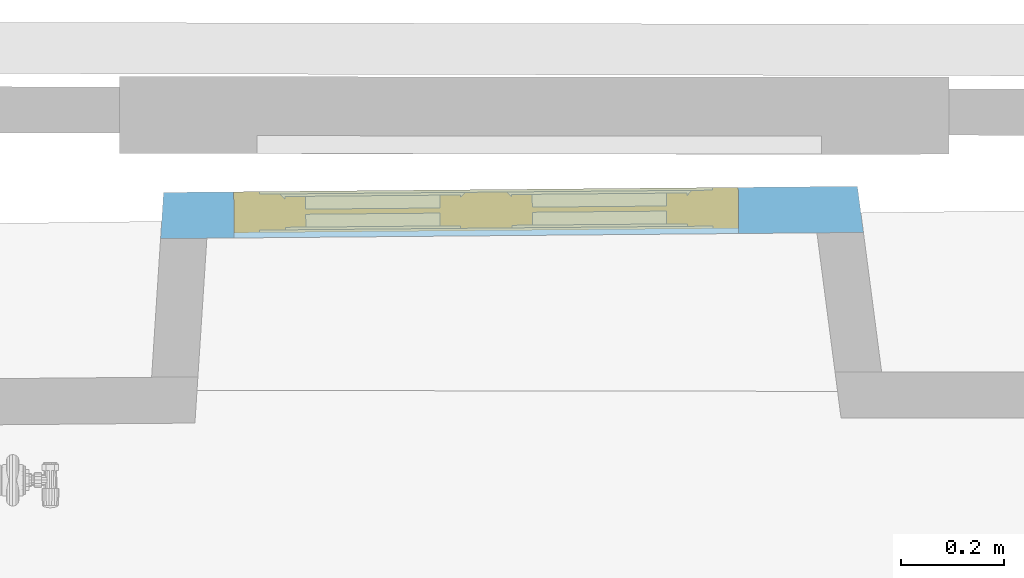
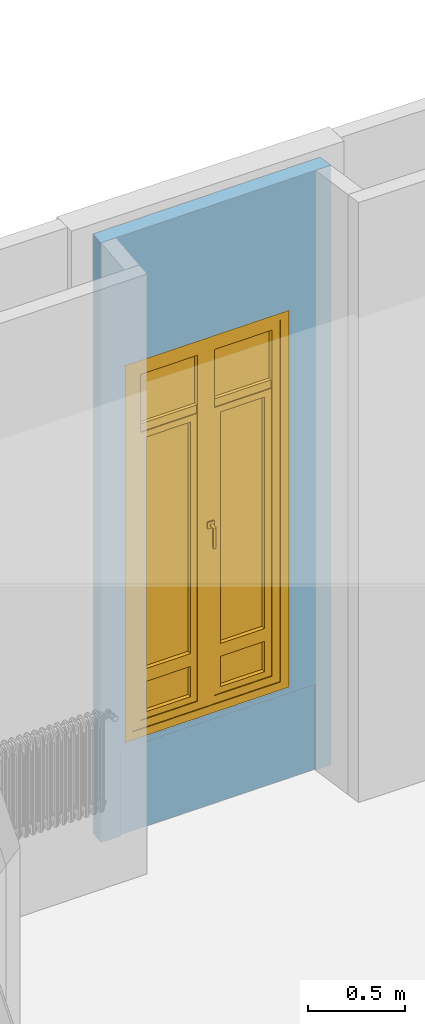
# One storey, part 43 of 66: 1 window, 2 openings, plus 1 element that does not belong to this part.
"""IFC2X3 building model written with IfcOpenShell, lengths in centimetres."""

from ifc_helpers import new_model, entity, si_unit, converted_unit, direction, frame, origin, origin_with_axes, place, context, subcontext, project, spatial, polyline, outline, extrude, faceted_brep, shape, source, transform, mapped, material, material_list, layer, layer_set, layer_usage, type_object, element, fill, save


model = new_model("IFC2X3")

# Units and contexts
model_context = context("Model", 3, precision=0.0001, world=origin(), true_north=direction((0.225632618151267, 0.974212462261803, 0.0)))
body_context = subcontext(model_context, "Body", "Model", "MODEL_VIEW")
footprint_context = subcontext(model_context, "FootPrint", "Model", "MODEL_VIEW")
profile_context = subcontext(model_context, "Profile", "Model", "MODEL_VIEW")
ifc_project = project(units=[si_unit("LENGTHUNIT", "METRE", prefix="CENTI"), si_unit("AREAUNIT", "SQUARE_METRE", prefix="CENTI"), si_unit("VOLUMEUNIT", "CUBIC_METRE", prefix="CENTI"), converted_unit("PLANEANGLEUNIT", "DEGREE", entity("IfcRatioMeasure", 0.0174532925), si_unit("PLANEANGLEUNIT", "RADIAN"), dimensions=[0, 0, 0, 0, 0, 0, 0])], contexts=[model_context])

# Site, building, storey
site_placement = place(None, origin_with_axes())
site = spatial("IfcSite", under=ifc_project, at=site_placement, Name="Default Site", CompositionType="ELEMENT")
building_placement = place(site_placement, origin_with_axes())
building = spatial("IfcBuilding", under=site, at=building_placement, Name="Default Building", CompositionType="ELEMENT")
storey_placement = place(building_placement, frame((0.0, 0.0, 477.795358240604), z_axis=(0.0, 0.0, 1.0), x_axis=(1.0, 0.0, 0.0)))
storey = spatial("IfcBuildingStorey", under=building, at=storey_placement, Name="Niveau 1", CompositionType="ELEMENT", Elevation=477.795358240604)

# Wall, openings, window
ifc_material_1 = material(Name="<aucun>")
ifc_layer = layer(ifc_material_1, 9.0)
ifc_layer_set = layer_set([ifc_layer], Name="default")
ifc_layer_usage = layer_usage(ifc_layer_set, "AXIS2", "POSITIVE", -4.5)
wall_type = type_object("IfcWallType", Name="default 90", PredefinedType="NOTDEFINED", material=ifc_layer_set)
wall_placement = place(storey_placement, frame((-1025.23469400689, 736.471525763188, 0.0128503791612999), z_axis=(0.0, 0.0, 1.0), x_axis=(0.999961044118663, 0.00882667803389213, 0.0)))
wall = element("IfcWallStandardCase", 1, at=wall_placement, inside=storey, type_object=wall_type, material=ifc_layer_usage, Name="Enveloppe 93830", context=body_context, shape_type="SweptSolid", body=[
    extrude(outline(polyline([(-4.82733297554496, -4.4999999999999), (132.179379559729, -4.49999999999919), (131.08648423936, 4.50000000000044), (-4.16534960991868, 4.49999999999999), (-4.82733297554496, -4.4999999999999)])), origin_with_axes(), (0.0, 0.0, 1.0), 376.102165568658),
])
opening_1_placement = place(wall_placement, frame((6.79993286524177, 3.41060513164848e-13, 1.77635683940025e-13), z_axis=(0.0, 0.0, 1.0), x_axis=(-1.0, -3.77128883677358e-15, 0.0)))
cartesian_point_1 = entity("IfcCartesianPoint", [0.0, 8.88178419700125e-14, 54.0])
cartesian_point_2 = entity("IfcCartesianPoint", [-116.319956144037, -4.49999999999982])
element("IfcOpeningElement", 2, at=opening_1_placement, cuts=wall, Name="Baie 115411", ObjectType="Recess", shapes=[
    shape(body_context, "Body", "Brep", [faceted_brep([(3.09080713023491e-05, 24.4999918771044, -1.92276756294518e-05), (-116.319960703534, 24.4999918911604, -1.92276756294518e-05), (-116.319960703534, 24.4999918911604, 53.9999769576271), (3.09080713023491e-05, 24.4999918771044, 53.9999769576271), (3.09055336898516e-05, 3.4999811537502, 53.9999769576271), (3.09055336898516e-05, 3.4999811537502, -1.92276756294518e-05), (-3.05080069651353e-05, 3.49998115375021, -1.92276756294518e-05), (-116.319926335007, 3.50002133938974, -1.92276756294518e-05), (-116.319960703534, 24.4999852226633, -1.92276756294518e-05), (-116.319960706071, 3.50002133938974, -1.92276756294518e-05), (-116.319960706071, 3.50002133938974, 53.9999769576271), (-116.319960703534, 24.4999852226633, 53.9999769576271), (-116.319926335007, 3.50002133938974, 53.9999769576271), (-3.05080069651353e-05, 3.49998115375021, 53.9999769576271), (-3.05080069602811e-05, 3.5000213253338, -1.92276756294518e-05), (-3.05080069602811e-05, 3.5000213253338, 53.9999769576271)], [[[0, 1, 2, 3]], [[3, 4, 5, 0]], [[0, 6, 7, 8]], [[8, 9, 10, 11]], [[11, 12, 13, 3]], [[12, 7, 14, 15]]])]),
    shape(profile_context, "Profile", "GeometricCurveSet", [entity("IfcGeometricCurveSet", [entity("IfcPolyline", [cartesian_point_1, entity("IfcCartesianPoint", [0.0, 8.88178419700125e-14, 0.0]), entity("IfcCartesianPoint", [-116.319956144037, 8.88178419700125e-14, 0.0]), entity("IfcCartesianPoint", [-116.319956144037, 8.88178419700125e-14, 54.0]), cartesian_point_1])])]),
    shape(footprint_context, "FootPrint", "GeometricCurveSet", [entity("IfcGeometricCurveSet", [entity("IfcPolyline", [cartesian_point_2, entity("IfcCartesianPoint", [0.0, -4.49999999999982]), entity("IfcCartesianPoint", [1.77635683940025e-13, 4.49999999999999]), entity("IfcCartesianPoint", [-116.319956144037, 4.49999999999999]), cartesian_point_2])])]),
])
opening_2_placement = place(wall_placement, frame((9.50330278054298, 0.0, 56.9871496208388), z_axis=(0.0, 0.0, 1.0), x_axis=(-1.0, -3.77128883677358e-15, 0.0)))
cartesian_point_3 = entity("IfcCartesianPoint", [0.0, 0.0, 237.0])
cartesian_point_4 = entity("IfcCartesianPoint", [-98.3512092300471, -4.50000000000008])
opening_2 = element("IfcOpeningElement", 3, at=opening_2_placement, cuts=wall, Name="4294966426_11", ObjectType="Opening", shapes=[
    shape(body_context, "Body", "SweptSolid", [extrude(outline(polyline([(-1.77635683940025e-13, 237.0), (-1.77635683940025e-13, 0.0), (98.3512092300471, 0.0), (98.3512092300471, 237.0), (-1.77635683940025e-13, 237.0)])), frame((0.0, -14.5, 0.0), z_axis=(0.0, 1.0, 0.0), x_axis=(-1.0, 0.0, 0.0)), (0.0, 0.0, 1.0), 29.0)]),
    shape(profile_context, "Profile", "GeometricCurveSet", [entity("IfcGeometricCurveSet", [entity("IfcPolyline", [cartesian_point_3, entity("IfcCartesianPoint", [0.0, 0.0, 0.0]), entity("IfcCartesianPoint", [-98.3512092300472, -8.88178419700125e-14, 0.0]), entity("IfcCartesianPoint", [-98.3512092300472, -8.88178419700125e-14, 237.0]), cartesian_point_3])])]),
    shape(footprint_context, "FootPrint", "GeometricCurveSet", [entity("IfcGeometricCurveSet", [entity("IfcPolyline", [cartesian_point_4, entity("IfcCartesianPoint", [1.77635683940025e-13, -4.50000000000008]), entity("IfcCartesianPoint", [1.77635683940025e-13, 4.4999999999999]), entity("IfcCartesianPoint", [-98.3512092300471, 4.49999999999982]), cartesian_point_4])])]),
])
ifc_material_2 = material(Name="Transparent")
ifc_material_3 = material(Name="Vert clair_porte")
ifc_material_4 = material(Name="Aluminium satiné")
ifc_material_list = material_list([ifc_material_2, ifc_material_3, ifc_material_4])
window_style = type_object("IfcWindowStyle", Name="FN[R] 2VB[2V] MM", ConstructionType="NOTDEFINED", OperationType="NOTDEFINED", ParameterTakesPrecedence=False, Sizeable=False, material=ifc_material_list)
shared_shape = source(origin_with_axes(), body_context, "Body", "Brep", [
    faceted_brep([(-44.1756039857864, 231.99999332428, -3.99999991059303), (-44.1756039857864, 231.99999332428, 3.99999991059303), (-44.1756039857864, 5.00000007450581, 3.99999991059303), (-44.1756039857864, 5.00000007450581, -3.99999991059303), (-49.1756051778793, 236.999988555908, 3.99999991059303), (-49.1756051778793, 0.0, 3.99999991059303), (-49.1756051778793, 236.999988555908, -3.99999991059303), (-49.1756051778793, 0.0, -3.99999991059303), (44.1756039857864, 5.0000000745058, 3.99999991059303), (44.1756039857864, 5.0000000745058, -3.99999991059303), (49.1756051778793, 0.0, 3.99999991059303), (44.1756039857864, 5.00000007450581, 3.99999991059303), (49.1756051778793, 0.0, -3.99999991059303), (44.1756039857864, 5.00000007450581, -3.99999991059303), (44.1756039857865, 231.99999332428, 3.99999991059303), (44.1756039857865, 231.99999332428, -3.99999991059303), (49.1756051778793, 236.999988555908, 3.99999991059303), (44.1756039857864, 231.99999332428, 3.99999991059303), (49.1756051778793, 236.999988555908, -3.99999991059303), (44.1756039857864, 231.99999332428, -3.99999991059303)], [[[0, 1, 2, 3]], [[1, 4, 5, 2]], [[4, 6, 7, 5]], [[6, 0, 3, 7]], [[3, 2, 8, 9]], [[2, 5, 10, 11]], [[5, 7, 12, 10]], [[7, 3, 13, 12]], [[13, 11, 14, 15]], [[11, 10, 16, 17]], [[10, 12, 18, 16]], [[12, 13, 19, 18]], [[19, 17, 1, 0]], [[17, 16, 4, 1]], [[16, 18, 6, 4]], [[18, 19, 0, 6]]]),
    faceted_brep([(-40.1756048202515, 227.999997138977, -3.50000001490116), (-39.1756053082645, 226.999998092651, -2.50000050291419), (-39.1756053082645, 10.0000001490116, -2.50000050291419), (-40.1756048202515, 9.00000035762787, -3.50000001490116), (-39.1756057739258, 226.999998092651, -2.5000000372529), (-39.1756057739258, 226.999998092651, 3.50000001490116), (-39.1756057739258, 10.0000001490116, 3.50000001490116), (-39.1756057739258, 10.0000001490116, -2.5000000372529), (-44.1756039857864, 231.99999332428, 3.50000001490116), (-44.1756039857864, 5.00000007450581, 3.50000001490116), (-44.1756039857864, 231.99999332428, -3.50000001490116), (-44.1756039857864, 5.00000007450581, -3.50000001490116), (-39.1756057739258, 10.0000002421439, -2.50000013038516), (-5.00000007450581, 10.0000002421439, -2.50000013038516), (-3.99999991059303, 9.00000035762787, -3.50000001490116), (-5.00000007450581, 10.0000001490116, 3.50000001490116), (-5.00000007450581, 10.0000001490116, -2.5000000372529), (1.11022302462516e-14, 5.00000007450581, 3.50000001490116), (1.11022302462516e-14, 5.00000007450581, -3.50000001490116), (-4.99999998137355, 10.0000001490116, -2.49999994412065), (-4.99999998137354, 226.999998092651, -2.49999994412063), (-3.99999991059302, 227.999997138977, -3.50000001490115), (-5.00000007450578, 226.999998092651, 3.50000001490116), (-5.00000007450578, 226.999998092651, -2.5000000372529), (2.22044604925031e-14, 231.99999332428, 3.50000001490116), (-5.00000007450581, 226.999998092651, 3.50000001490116), (2.22044600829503e-14, 231.99999332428, -3.50000001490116), (2.22044600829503e-14, 231.99999332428, 3.50000001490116), (-3.99999991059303, 227.999997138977, -3.50000001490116), (2.22044604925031e-14, 231.99999332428, -3.50000001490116), (-5.00000007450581, 226.99999762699, -2.50000050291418), (-39.1756057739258, 226.99999762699, -2.50000050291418), (-5.00000007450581, 226.999998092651, -2.5000000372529)], [[[0, 1, 2, 3]], [[4, 5, 6, 7]], [[5, 8, 9, 6]], [[8, 10, 11, 9]], [[10, 0, 3, 11]], [[3, 12, 13, 14]], [[7, 6, 15, 16]], [[6, 9, 17, 15]], [[9, 11, 18, 17]], [[11, 3, 14, 18]], [[14, 19, 20, 21]], [[16, 15, 22, 23]], [[15, 17, 24, 25]], [[17, 18, 26, 27]], [[18, 14, 28, 29]], [[28, 30, 31, 0]], [[32, 25, 5, 4]], [[25, 24, 8, 5]], [[24, 29, 10, 8]], [[29, 28, 0, 10]]]),
    faceted_brep([(-5.00000007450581, 226.999998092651, -0.499999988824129), (-5.00000007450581, 195.200002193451, -0.499999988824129), (-39.1756057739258, 195.200002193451, -0.499999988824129), (-39.1756057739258, 226.999998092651, -0.499999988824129), (-39.1756057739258, 226.999998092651, 0.499999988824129), (-39.1756057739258, 195.200002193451, 0.499999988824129), (-5.00000007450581, 195.200002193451, 0.499999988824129), (-5.00000007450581, 226.999998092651, 0.499999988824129)], [[[0, 1, 2, 3]], [[4, 5, 6, 7]], [[3, 2, 5, 4]], [[2, 1, 6, 5]], [[1, 0, 7, 6]], [[0, 3, 4, 7]]]),
    faceted_brep([(-5.00000007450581, 190.199995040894, 2.5000000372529), (-5.00000007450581, 190.199995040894, -2.5000000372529), (-5.00000007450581, 195.200002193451, -2.5000000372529), (-5.00000007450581, 195.200002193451, 2.5000000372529), (-39.1756057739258, 195.200002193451, 2.5000000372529), (-39.1756057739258, 195.200002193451, -2.5000000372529), (-39.1756057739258, 190.199995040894, -2.5000000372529), (-39.1756057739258, 190.199995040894, 2.5000000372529)], [[[0, 1, 2, 3]], [[4, 5, 6, 7]], [[3, 2, 5, 4]], [[2, 1, 6, 5]], [[1, 0, 7, 6]], [[0, 3, 4, 7]]]),
    faceted_brep([(-35.1756036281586, 186.199998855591, -2.99999993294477), (-35.1756036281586, 186.199998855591, 2.99999993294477), (-35.1756036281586, 41.0299986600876, 2.99999993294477), (-35.1756036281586, 41.0299986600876, -2.99999993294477), (-39.1756057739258, 190.199995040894, 2.99999993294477), (-39.1756057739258, 37.0299994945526, 2.99999993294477), (-39.1756057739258, 190.199995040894, -2.99999993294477), (-39.1756057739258, 37.0299994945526, -2.99999993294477), (-9.00000035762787, 41.0299986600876, 2.99999993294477), (-9.00000035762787, 41.0299986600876, -2.99999993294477), (-5.00000007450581, 37.0299994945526, 2.99999993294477), (-5.00000007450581, 37.0299994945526, -2.99999993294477), (-9.00000035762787, 186.199998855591, 2.99999993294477), (-9.00000035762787, 186.199998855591, -2.99999993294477), (-5.00000007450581, 190.199995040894, 2.99999993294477), (-5.0000000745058, 190.199995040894, -2.99999993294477), (-5.0000000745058, 190.199995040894, 2.99999993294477), (-5.00000007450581, 190.199995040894, -2.99999993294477)], [[[0, 1, 2, 3]], [[1, 4, 5, 2]], [[4, 6, 7, 5]], [[6, 0, 3, 7]], [[3, 2, 8, 9]], [[2, 5, 10, 8]], [[5, 7, 11, 10]], [[7, 3, 9, 11]], [[9, 8, 12, 13]], [[8, 10, 14, 12]], [[10, 11, 15, 16]], [[11, 9, 13, 17]], [[13, 12, 1, 0]], [[12, 14, 4, 1]], [[14, 17, 6, 4]], [[17, 13, 0, 6]]]),
    faceted_brep([(-9.00000035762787, 186.199998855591, -0.499999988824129), (-9.00000035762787, 41.0299986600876, -0.499999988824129), (-35.1756036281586, 41.0299986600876, -0.499999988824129), (-35.1756036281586, 186.199998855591, -0.499999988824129), (-35.1756036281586, 186.199998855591, 0.499999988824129), (-35.1756036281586, 41.0299986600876, 0.499999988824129), (-9.00000035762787, 41.0299986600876, 0.499999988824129), (-9.00000035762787, 186.199998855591, 0.499999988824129), (-9.00000035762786, 186.199998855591, -0.499999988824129), (-9.00000035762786, 186.199998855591, 0.499999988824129)], [[[0, 1, 2, 3]], [[4, 5, 6, 7]], [[3, 2, 5, 4]], [[2, 1, 6, 5]], [[1, 8, 9, 6]], [[0, 3, 4, 7]]]),
    faceted_brep([(-35.1756036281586, 33.0300003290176, -2.99999993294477), (-35.1756036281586, 33.0300003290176, 2.99999993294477), (-35.1756036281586, 14.0000000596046, 2.99999993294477), (-35.1756036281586, 14.0000000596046, -2.99999993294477), (-39.1756057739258, 37.0299994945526, 2.99999993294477), (-39.1756057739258, 10.0000001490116, 2.99999993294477), (-39.1756057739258, 37.0299994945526, -2.99999993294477), (-39.1756057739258, 10.0000001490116, -2.99999993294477), (-9.00000035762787, 14.0000000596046, 2.99999993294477), (-9.00000035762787, 14.0000000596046, -2.99999993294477), (-5.00000007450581, 10.0000001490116, 2.99999993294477), (-5.00000007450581, 10.0000001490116, -2.99999993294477), (-9.00000035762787, 33.0300003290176, 2.99999993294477), (-9.00000035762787, 33.0300003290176, -2.99999993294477), (-5.00000007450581, 37.0299994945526, 2.99999993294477), (-5.00000007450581, 37.0299994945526, -2.99999993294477)], [[[0, 1, 2, 3]], [[1, 4, 5, 2]], [[4, 6, 7, 5]], [[6, 0, 3, 7]], [[3, 2, 8, 9]], [[2, 5, 10, 8]], [[5, 7, 11, 10]], [[7, 3, 9, 11]], [[9, 8, 12, 13]], [[8, 10, 14, 12]], [[10, 11, 15, 14]], [[11, 9, 13, 15]], [[13, 12, 1, 0]], [[12, 14, 4, 1]], [[14, 15, 6, 4]], [[15, 13, 0, 6]]]),
    faceted_brep([(-9.00000035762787, 33.0300003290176, -0.499999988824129), (-9.00000035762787, 14.0000000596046, -0.499999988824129), (-35.1756036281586, 14.0000000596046, -0.499999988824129), (-35.1756036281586, 33.0300003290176, -0.499999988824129), (-35.1756036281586, 33.0300003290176, 0.499999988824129), (-35.1756036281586, 14.0000000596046, 0.499999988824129), (-9.00000035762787, 14.0000000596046, 0.499999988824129), (-9.00000035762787, 33.0300003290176, 0.499999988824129)], [[[0, 1, 2, 3]], [[4, 5, 6, 7]], [[3, 2, 5, 4]], [[2, 1, 6, 5]], [[1, 0, 7, 6]], [[0, 3, 4, 7]]]),
    faceted_brep([(3.99999991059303, 227.999997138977, -3.50000001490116), (4.99999998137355, 226.999998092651, -2.49999994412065), (4.99999998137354, 10.0000001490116, -2.49999994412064), (3.99999991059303, 9.00000035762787, -3.50000001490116), (5.00000007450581, 226.999998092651, -2.5000000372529), (5.00000007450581, 226.999998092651, 3.50000001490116), (5.0000000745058, 10.0000001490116, 3.50000001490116), (5.0000000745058, 10.0000001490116, -2.5000000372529), (2.22044604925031e-14, 231.99999332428, 3.50000001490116), (1.11022302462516e-14, 5.00000007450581, 3.50000001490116), (5.00000007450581, 10.0000001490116, 3.50000001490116), (2.22044604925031e-14, 231.99999332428, -3.50000001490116), (1.11022306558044e-14, 5.00000007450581, -3.50000001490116), (1.11022306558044e-14, 5.00000007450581, 3.50000001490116), (1.11022302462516e-14, 5.00000007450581, -3.50000001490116), (5.00000007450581, 10.0000002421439, -2.50000013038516), (39.1756057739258, 10.0000002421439, -2.50000013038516), (40.1756048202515, 9.00000035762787, -3.50000001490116), (5.00000007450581, 10.0000001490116, -2.5000000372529), (39.1756057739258, 10.0000001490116, 3.50000001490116), (39.1756057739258, 10.0000001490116, -2.5000000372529), (44.1756039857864, 5.00000007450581, 3.50000001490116), (44.1756039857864, 5.00000007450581, -3.50000001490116), (39.1756053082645, 10.0000001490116, -2.50000050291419), (39.1756053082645, 226.999998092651, -2.50000050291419), (40.1756048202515, 227.999997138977, -3.50000001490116), (39.1756057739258, 226.999998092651, 3.50000001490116), (39.1756057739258, 226.999998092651, -2.5000000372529), (44.1756039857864, 231.99999332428, 3.50000001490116), (44.1756039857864, 231.99999332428, -3.50000001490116), (39.1756057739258, 226.99999762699, -2.50000050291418), (5.00000007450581, 226.99999762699, -2.50000050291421), (3.99999991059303, 227.999997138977, -3.50000001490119)], [[[0, 1, 2, 3]], [[4, 5, 6, 7]], [[5, 8, 9, 10]], [[8, 11, 12, 13]], [[11, 0, 3, 14]], [[3, 15, 16, 17]], [[18, 10, 19, 20]], [[10, 9, 21, 19]], [[9, 14, 22, 21]], [[14, 3, 17, 22]], [[17, 23, 24, 25]], [[20, 19, 26, 27]], [[19, 21, 28, 26]], [[21, 22, 29, 28]], [[22, 17, 25, 29]], [[25, 30, 31, 32]], [[27, 26, 5, 4]], [[26, 28, 8, 5]], [[28, 29, 11, 8]], [[29, 25, 0, 11]]]),
    faceted_brep([(4.50000017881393, 120.500004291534, 3.50000001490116), (4.50000017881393, 116.499996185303, 3.50000001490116), (0.499999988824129, 116.499996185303, 3.50000001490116), (0.499999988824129, 120.500004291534, 3.50000001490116), (0.499999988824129, 120.500004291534, 4.30000014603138), (0.499999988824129, 116.499996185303, 4.30000014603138), (4.50000017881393, 116.499996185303, 4.30000014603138), (4.50000017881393, 120.500004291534, 4.30000014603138)], [[[0, 1, 2, 3]], [[4, 5, 6, 7]], [[3, 2, 5, 4]], [[2, 1, 6, 5]], [[1, 0, 7, 6]], [[0, 3, 4, 7]]]),
    faceted_brep([(3.24999988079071, 119.000005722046, 4.30000014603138), (3.24999988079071, 117.999994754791, 4.30000014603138), (1.75000000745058, 117.999994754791, 4.30000014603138), (1.75000000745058, 119.000005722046, 4.30000014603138), (1.75000000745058, 119.000005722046, 8.29999968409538), (1.75000000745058, 118.000000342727, 7.29999430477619), (3.24999988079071, 118.000000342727, 7.29999430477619), (3.24999988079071, 119.000005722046, 8.29999968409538), (1.75000000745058, 117.999994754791, 7.29999989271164), (3.24999988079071, 117.999994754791, 7.29999989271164)], [[[0, 1, 2, 3]], [[4, 5, 6, 7]], [[3, 2, 8, 4]], [[2, 1, 9, 8]], [[1, 0, 7, 9]], [[0, 3, 4, 7]]]),
    faceted_brep([(3.24999988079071, 119.000005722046, 8.29999968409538), (3.24999988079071, 118.000000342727, 7.29999430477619), (1.75000000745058, 118.000000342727, 7.29999430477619), (1.75000000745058, 119.000005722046, 8.29999968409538), (1.75000000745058, 105.999994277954, 8.29999968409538), (1.75000000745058, 105.999994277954, 7.29999989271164), (3.24999988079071, 105.999994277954, 7.29999989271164), (3.24999988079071, 105.999994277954, 8.29999968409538), (1.75000000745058, 117.999994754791, 7.29999989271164), (3.24999988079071, 117.999994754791, 7.29999989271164)], [[[0, 1, 2, 3]], [[4, 5, 6, 7]], [[3, 8, 5, 4]], [[8, 9, 6, 5]], [[9, 0, 7, 6]], [[0, 3, 4, 7]]]),
    faceted_brep([(39.1756057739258, 226.999998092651, -0.499999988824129), (39.1756057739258, 195.200002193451, -0.499999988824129), (5.00000007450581, 195.200002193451, -0.499999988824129), (5.00000007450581, 226.999998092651, -0.499999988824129), (5.00000007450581, 226.999998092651, 0.499999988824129), (5.00000007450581, 195.200002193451, 0.499999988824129), (39.1756057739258, 195.200002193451, 0.499999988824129), (39.1756057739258, 226.999998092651, 0.499999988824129)], [[[0, 1, 2, 3]], [[4, 5, 6, 7]], [[3, 2, 5, 4]], [[2, 1, 6, 5]], [[1, 0, 7, 6]], [[0, 3, 4, 7]]]),
    faceted_brep([(39.1756057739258, 190.199995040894, 2.5000000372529), (39.1756057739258, 190.199995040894, -2.5000000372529), (39.1756057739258, 195.200002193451, -2.5000000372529), (39.1756057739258, 195.200002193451, 2.5000000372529), (5.00000007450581, 195.200002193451, 2.5000000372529), (5.00000007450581, 195.200002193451, -2.5000000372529), (5.00000007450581, 190.199995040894, -2.5000000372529), (5.00000007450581, 190.199995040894, 2.5000000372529)], [[[0, 1, 2, 3]], [[4, 5, 6, 7]], [[3, 2, 5, 4]], [[2, 1, 6, 5]], [[1, 0, 7, 6]], [[0, 3, 4, 7]]]),
    faceted_brep([(9.00000035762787, 186.199998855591, -2.99999993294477), (9.00000035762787, 186.199998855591, 2.99999993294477), (9.00000035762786, 41.0299986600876, 2.99999993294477), (9.00000035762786, 41.0299986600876, -2.99999993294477), (5.00000007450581, 190.199995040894, 2.99999993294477), (5.00000007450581, 37.0299994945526, 2.99999993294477), (9.00000035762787, 41.0299986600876, 2.99999993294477), (5.00000007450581, 190.199995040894, -2.99999993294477), (5.0000000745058, 37.0299994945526, -2.99999993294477), (5.0000000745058, 37.0299994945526, 2.99999993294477), (9.00000035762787, 41.0299986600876, -2.99999993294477), (5.00000007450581, 37.0299994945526, -2.99999993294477), (35.1756036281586, 41.0299986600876, 2.99999993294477), (35.1756036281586, 41.0299986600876, -2.99999993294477), (39.1756057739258, 37.0299994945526, 2.99999993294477), (39.1756057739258, 37.0299994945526, -2.99999993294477), (35.1756036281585, 186.199998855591, 2.99999993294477), (35.1756036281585, 186.199998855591, -2.99999993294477), (39.1756057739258, 190.199995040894, 2.99999993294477), (35.1756036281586, 186.199998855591, 2.99999993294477), (39.1756057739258, 190.199995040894, -2.99999993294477), (35.1756036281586, 186.199998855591, -2.99999993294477)], [[[0, 1, 2, 3]], [[1, 4, 5, 6]], [[4, 7, 8, 9]], [[7, 0, 10, 11]], [[10, 6, 12, 13]], [[6, 5, 14, 12]], [[5, 11, 15, 14]], [[11, 10, 13, 15]], [[13, 12, 16, 17]], [[12, 14, 18, 19]], [[14, 15, 20, 18]], [[15, 13, 21, 20]], [[21, 19, 1, 0]], [[19, 18, 4, 1]], [[18, 20, 7, 4]], [[20, 21, 0, 7]]]),
    faceted_brep([(35.1756036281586, 186.199998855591, -0.499999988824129), (35.1756036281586, 41.0299986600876, -0.499999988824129), (9.00000035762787, 41.0299986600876, -0.499999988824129), (9.00000035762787, 186.199998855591, -0.499999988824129), (9.00000035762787, 186.199998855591, 0.499999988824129), (9.00000035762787, 41.0299986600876, 0.499999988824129), (35.1756036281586, 41.0299986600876, 0.499999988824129), (35.1756036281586, 186.199998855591, 0.499999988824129), (9.00000035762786, 41.0299986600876, -0.499999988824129), (9.00000035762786, 41.0299986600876, 0.499999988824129)], [[[0, 1, 2, 3]], [[4, 5, 6, 7]], [[3, 8, 9, 4]], [[2, 1, 6, 5]], [[1, 0, 7, 6]], [[0, 3, 4, 7]]]),
    faceted_brep([(9.00000035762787, 33.0300003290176, -2.99999993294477), (9.00000035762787, 33.0300003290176, 2.99999993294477), (9.00000035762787, 14.0000000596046, 2.99999993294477), (9.00000035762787, 14.0000000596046, -2.99999993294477), (5.00000007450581, 37.0299994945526, 2.99999993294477), (5.00000007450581, 10.0000001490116, 2.99999993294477), (5.00000007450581, 37.0299994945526, -2.99999993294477), (5.00000007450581, 10.0000001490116, -2.99999993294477), (35.1756036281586, 14.0000000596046, 2.99999993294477), (35.1756036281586, 14.0000000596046, -2.99999993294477), (39.1756057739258, 10.0000001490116, 2.99999993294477), (39.1756057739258, 10.0000001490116, -2.99999993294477), (35.1756036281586, 33.0300003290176, 2.99999993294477), (35.1756036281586, 33.0300003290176, -2.99999993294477), (39.1756057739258, 37.0299994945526, 2.99999993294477), (39.1756057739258, 37.0299994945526, -2.99999993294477)], [[[0, 1, 2, 3]], [[1, 4, 5, 2]], [[4, 6, 7, 5]], [[6, 0, 3, 7]], [[3, 2, 8, 9]], [[2, 5, 10, 8]], [[5, 7, 11, 10]], [[7, 3, 9, 11]], [[9, 8, 12, 13]], [[8, 10, 14, 12]], [[10, 11, 15, 14]], [[11, 9, 13, 15]], [[13, 12, 1, 0]], [[12, 14, 4, 1]], [[14, 15, 6, 4]], [[15, 13, 0, 6]]]),
    faceted_brep([(35.1756036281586, 33.0300003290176, -0.499999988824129), (35.1756036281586, 14.0000000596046, -0.499999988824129), (9.00000035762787, 14.0000000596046, -0.499999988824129), (9.00000035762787, 33.0300003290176, -0.499999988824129), (9.00000035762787, 33.0300003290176, 0.499999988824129), (9.00000035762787, 14.0000000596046, 0.499999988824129), (35.1756036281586, 14.0000000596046, 0.499999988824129), (35.1756036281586, 33.0300003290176, 0.499999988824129)], [[[0, 1, 2, 3]], [[4, 5, 6, 7]], [[3, 2, 5, 4]], [[2, 1, 6, 5]], [[1, 0, 7, 6]], [[0, 3, 4, 7]]]),
])
window_placement = place(opening_2_placement, frame((-98.3512092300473, -4.5, 0.0), z_axis=(0.0, 0.0, 1.0), x_axis=(1.0, 0.0, 0.0)))
window = element("IfcWindow", 4, at=window_placement, inside=storey, type_object=window_style, material=ifc_material_list, Name="Fenêtre 115412", OverallHeight=237.0, OverallWidth=98.3512092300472, context=body_context, shape_type="MappedRepresentation", body=[
    mapped(shared_shape, transform((49.1756046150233, 4.0, -8.88178419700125e-14), x_axis=(-1.0, 0.0, 0.0), y_axis=(0.0, 0.0, 1.0), z_axis=(0.0, 1.0, 0.0), scale=1.0, scale2=1.0, scale3=1.0, uniform=False)),
])
fill(opening_2, window)

save(model, "model.ifc")
